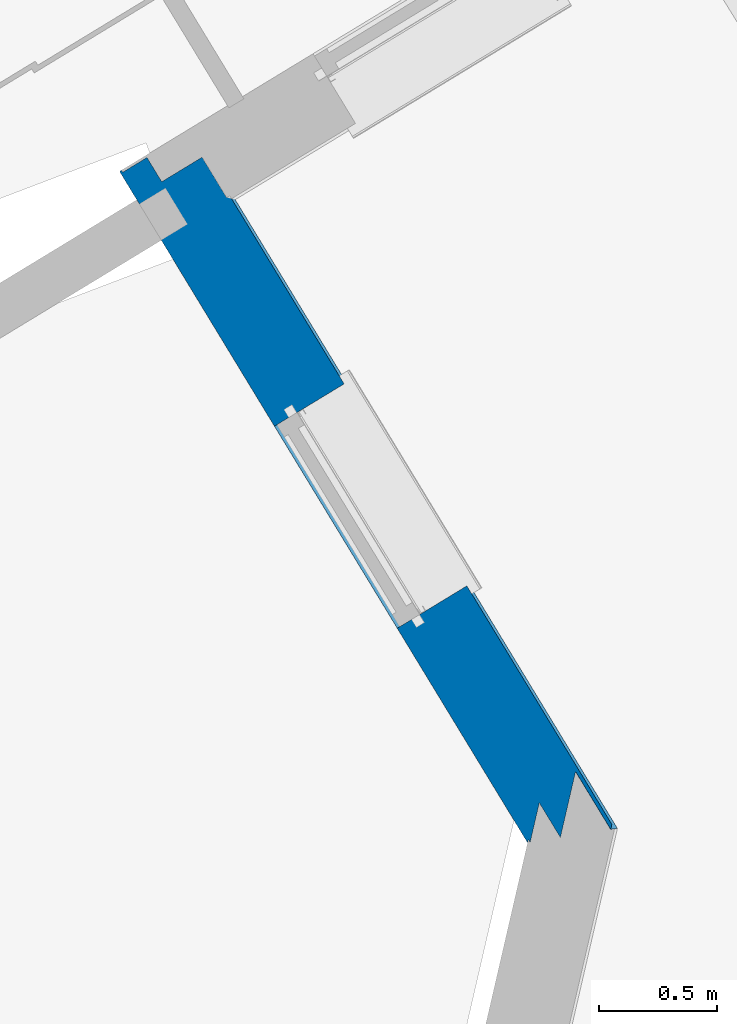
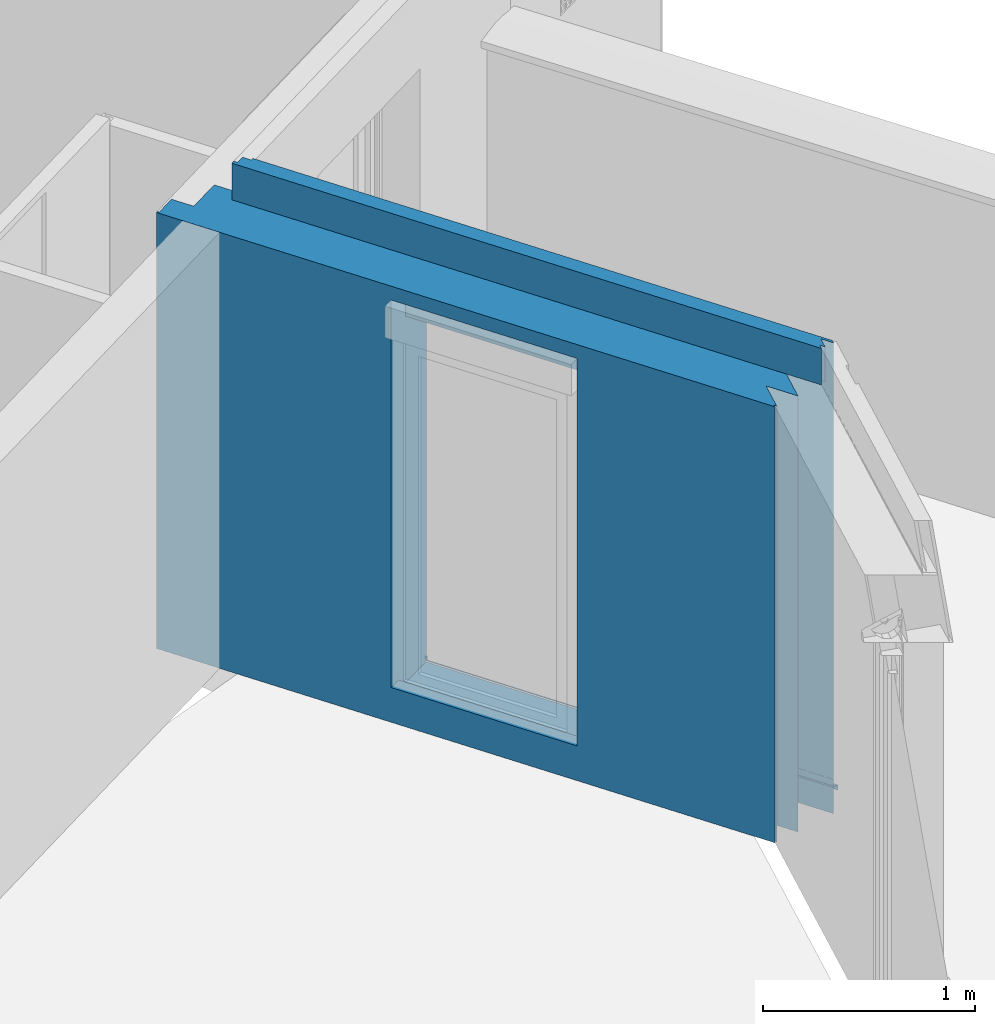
# One storey, part 33 of 119: 1 wall, 1 opening.
"""IFC2X3 building model written with IfcOpenShell, lengths in metres."""

from ifc_helpers import new_model, entity, si_unit, converted_unit, derived_unit, money_unit, direction, frame, origin_with_axes, place, context, subcontext, project, spatial, faceted_brep, material, material_list, type_object, element, save


model = new_model("IFC2X3")

# Units and contexts
model_context = context("Model", 3, precision=1e-05, world=origin_with_axes(), true_north=direction((0.0, 1.0)))
body_context = subcontext(model_context, "Body", "Model", "MODEL_VIEW")
ifc_project = project(units=[si_unit("LENGTHUNIT", "METRE"), si_unit("AREAUNIT", "SQUARE_METRE"), si_unit("VOLUMEUNIT", "CUBIC_METRE"), converted_unit("PLANEANGLEUNIT", "DEGREE", entity("IfcPlaneAngleMeasure", 0.0174532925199), si_unit("PLANEANGLEUNIT", "RADIAN"), dimensions=[0, 0, 0, 0, 0, 0, 0]), si_unit("SOLIDANGLEUNIT", "STERADIAN"), money_unit("EUR"), converted_unit("TIMEUNIT", "Year", entity("IfcTimeMeasure", 31556926.0), si_unit("TIMEUNIT", "SECOND"), dimensions=[0, 0, 1, 0, 0, 0, 0]), si_unit("MASSUNIT", "GRAM", prefix="KILO"), si_unit("THERMODYNAMICTEMPERATUREUNIT", "DEGREE_CELSIUS"), si_unit("LUMINOUSINTENSITYUNIT", "LUMEN"), si_unit("ENERGYUNIT", "JOULE", prefix="MEGA"), derived_unit("THERMALCONDUCTANCEUNIT", [(si_unit("POWERUNIT", "WATT"), 1), (si_unit("LENGTHUNIT", "METRE"), -1), (si_unit("THERMODYNAMICTEMPERATUREUNIT", "KELVIN"), -1)]), derived_unit("SPECIFICHEATCAPACITYUNIT", [(si_unit("ENERGYUNIT", "JOULE"), 1), (si_unit("MASSUNIT", "GRAM", prefix="KILO"), -1), (si_unit("THERMODYNAMICTEMPERATUREUNIT", "KELVIN"), -1)]), derived_unit("MASSDENSITYUNIT", [(si_unit("MASSUNIT", "GRAM", prefix="KILO"), 1), (si_unit("VOLUMEUNIT", "CUBIC_METRE"), -1)])], contexts=[model_context])

# Site, building, storey
site_placement = place(None, origin_with_axes())
site = spatial("IfcSite", under=ifc_project, at=site_placement, Name="Site", CompositionType="ELEMENT")
building_placement = place(site_placement, origin_with_axes())
building = spatial("IfcBuilding", under=site, at=building_placement, Name="Bâtiment", CompositionType="ELEMENT")
storey_placement = place(building_placement, origin_with_axes())
storey = spatial("IfcBuildingStorey", under=building, at=storey_placement, Name="Rez-de-chaussée", CompositionType="ELEMENT", Elevation=0.0)

# Wall, opening
ifc_material_1 = material(Name="Métal - Aluminium")
ifc_material_2 = material(Name="Finition ext - Crépis")
ifc_material_3 = material(Name="Etanchéité - Bitume")
ifc_material_4 = material(Name="Béton cellulaire")
ifc_material_5 = material(Name="Mortier")
ifc_material_6 = material(Name="Isolation - Polystyrène expansé")
ifc_material_7 = material(Name="Bloc ELITHERM")
ifc_material_8 = material(Name="Isolation - Polystyrène extrudé")
ifc_material_9 = material(Name="Finition int - Plaque de plâtre")
ifc_material_list = material_list([ifc_material_1, ifc_material_2, ifc_material_3, ifc_material_4, ifc_material_5, ifc_material_6, ifc_material_7, ifc_material_8, ifc_material_9])
wall_type = type_object("IfcWallType", Name="Mur ALKERN + planelle 21 TERRASSE RDC 356 x 2720", PredefinedType="USERDEFINED")
wall_placement = place(storey_placement, frame((0.778272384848, 20.6465593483, 0.0), z_axis=(0.0, 0.0, 1.0), x_axis=(0.519386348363, -0.854539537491, 0.0)))
wall = element("IfcWall", 1, at=wall_placement, inside=storey, type_object=wall_type, material=ifc_material_list, Name="Mue bloc ALKERN isolé", ObjectType="SOLIDWALL", context=body_context, shape_type="Brep", body=[
    faceted_brep([(0.90225256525, -0.0035607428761, 0.14), (1.90225256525, -0.0035607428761, 0.14), (1.90225256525, -0.0035607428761, 0.162931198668), (3.10339828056, -0.0035607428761, 0.16293119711), (3.1085472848, -0.0035607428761, 0.161852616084), (3.1085472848, -0.0035607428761, 0.160000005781), (3.1085472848, -0.0035607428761, 0.133633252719), (-0.00479482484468, -0.0035607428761, 0.133633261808), (-0.00479482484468, -0.0035607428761, 0.160000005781), (-0.00479482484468, -0.0035607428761, 0.161852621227), (-0.00839011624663, -0.0035607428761, 0.162931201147), (0.90225256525, -0.0035607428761, 0.162931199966), (0.90225256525, -0.00479482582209, 0.14), (1.90225256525, -0.00479482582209, 0.14), (1.90225256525, -0.0300000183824, 0.170774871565), (1.90225256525, -0.00479482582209, 0.161852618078), (1.90225256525, -0.0299999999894, 0.169414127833), (1.90225256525, -0.031045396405, 0.169727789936), (1.90225256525, -0.0310453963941, 0.2), (1.90225256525, -0.0300000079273, 0.2), (1.90225256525, -0.0300000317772, 0.176532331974), (3.09805836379, -0.0300000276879, 0.170774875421), (3.09443987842, -0.0264705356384, 0.169727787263), (3.09485312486, -0.0254132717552, 0.169414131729), (3.09955550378, -0.0299999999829, 0.169414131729), (3.10981248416, -0.00479482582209, 0.161852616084), (3.10981248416, -0.00479482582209, 0.160000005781), (3.10981248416, -0.00479482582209, 0.133633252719), (-0.00479482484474, -0.00479482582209, 0.133633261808), (-0.00479482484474, -0.00479482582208, 0.160000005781), (-0.00479482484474, -0.00479482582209, 0.161852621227), (-0.0300000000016, -0.03, 0.169414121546), (-0.0300000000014, -0.0254132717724, 0.169414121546), (0.90225256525, -0.0300000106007, 0.17077486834), (-0.0310453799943, -0.0264705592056, 0.169727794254), (-0.0310453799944, -0.030000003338, 0.17077486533), (0.90225256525, -0.0300000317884, 0.176532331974), (0.90225256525, -0.0300000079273, 0.2), (0.90225256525, -0.0310453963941, 0.2), (0.90225256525, -0.0310453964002, 0.16972779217), (0.90225256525, -0.0299999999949, 0.169414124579), (0.90225256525, -0.00479482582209, 0.161852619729), (3.09913009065, -0.0310453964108, 0.169727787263), (3.09913009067, -0.031045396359, 0.176532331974), (3.09913009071, -0.0310453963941, 0.207793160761), (1.90225256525, -0.0310453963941, 0.207793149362), (1.90225256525, -0.03, 0.207793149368), (3.09805833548, -0.03, 0.207793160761), (3.09805836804, -0.0300000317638, 0.176532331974), (-0.0310453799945, -0.0310453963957, 0.169727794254), (-0.0310453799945, -0.0310453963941, 0.176532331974), (-0.0310453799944, -0.0300000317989, 0.176532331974), (-0.0310453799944, -0.03, 0.207793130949), (0.90225256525, -0.03, 0.207793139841), (0.90225256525, -0.0310453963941, 0.207793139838), (-0.0310453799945, -0.0310453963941, 0.207793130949)], [[[0, 1, 2, 3, 4, 5, 6, 7, 8, 9, 10, 11]], [[1, 0, 12, 13]], [[14, 2, 1, 13, 15, 16, 17, 18, 19, 20]], [[2, 14, 21, 22, 23, 3]], [[24, 25, 4, 3, 23]], [[4, 25, 26, 5]], [[26, 27, 6, 5]], [[28, 7, 6, 27]], [[8, 7, 28, 29]], [[8, 29, 30, 9]], [[30, 31, 32, 10, 9]], [[33, 11, 10, 32, 34, 35]], [[0, 11, 33, 36, 37, 38, 39, 40, 41, 12]], [[12, 41, 30, 29, 28, 27, 26, 25, 15, 13]], [[16, 15, 25, 24]], [[17, 16, 24, 42]], [[18, 17, 42, 43, 44, 45]], [[19, 18, 45, 46]], [[20, 19, 46, 47, 48]], [[14, 20, 48, 21]], [[43, 42, 22, 21, 48]], [[22, 42, 24, 23]], [[41, 40, 31, 30]], [[32, 31, 49, 34]], [[49, 50, 51, 35, 34]], [[36, 33, 35, 51]], [[37, 36, 51, 52, 53]], [[38, 37, 53, 54]], [[39, 38, 54, 55, 50, 49]], [[40, 39, 49, 31]], [[43, 48, 47, 44]], [[45, 44, 47, 46]], [[51, 50, 55, 52]], [[53, 52, 55, 54]]]),
    faceted_brep([(0.90225256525, -0.0299999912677, 0.2), (0.90225256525, -0.0300000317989, 0.176532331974), (0.90225256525, -0.0150000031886, 0.176532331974), (0.90225256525, -0.0150000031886, 0.2), (0.90225256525, -0.0150000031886, 2.25), (0.90225256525, -0.0299999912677, 2.25), (1.90225256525, -0.0299999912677, 0.2), (1.90225256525, -0.0300000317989, 0.176532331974), (3.09955549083, -0.0300000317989, 0.176532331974), (3.09955550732, -0.0299999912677, 2.72), (-0.0300000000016, -0.0299999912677, 2.72), (-0.0300000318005, -0.0300000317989, 0.176532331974), (1.90225256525, -0.0299999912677, 2.25), (-0.0300000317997, -0.0150000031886, 0.176532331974), (1.90225256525, -0.0150000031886, 0.176532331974), (1.90225256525, -0.0150000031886, 0.2), (1.90225256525, -0.0150000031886, 2.25), (-0.0300000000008, -0.0150000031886, 2.72), (3.08417730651, -0.0150000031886, 2.72), (3.08417724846, -0.0150000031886, 0.176532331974)], [[[0, 1, 2, 3, 4, 5]], [[6, 7, 8, 9, 10, 11, 1, 0, 5, 12]], [[2, 1, 11, 13]], [[14, 15, 16, 4, 3, 2, 13, 17, 18, 19]], [[16, 12, 5, 4]], [[15, 14, 7, 6, 12, 16]], [[7, 14, 19, 8]], [[9, 8, 19, 18]], [[10, 9, 18, 17]], [[17, 13, 11, 10]]]),
    faceted_brep([(0.90225256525, -0.02, 0.14), (1.90225256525, -0.02, 0.14), (1.90225256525, -0.02, 0.160000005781), (3.08930334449, -0.02, 0.160000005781), (3.08930334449, -0.02, 0.133633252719), (3.08930334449, -0.02, 0.01), (-0.0291227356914, -0.02, 0.01), (-0.0291227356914, -0.02, 0.0), (-0.0300000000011, -0.02, 0.0), (-0.0300000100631, -0.02, 0.133633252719), (-0.0300000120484, -0.02, 0.160000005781), (0.90225256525, -0.02, 0.160000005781), (0.90225256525, -0.0300000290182, 0.14), (1.90225256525, -0.0300000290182, 0.14), (1.90225256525, -0.0300000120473, 0.160000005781), (3.09955549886, -0.0300000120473, 0.160000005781), (3.09955549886, -0.0300000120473, 0.133633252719), (3.0995555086, -0.0299999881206, 0.01), (-0.0291848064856, -0.0300000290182, 0.01), (-0.0291848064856, -0.0300000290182, 0.0), (-0.0300000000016, -0.0300000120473, 0.0), (-0.0300000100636, -0.0300000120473, 0.133633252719), (-0.0300000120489, -0.0300000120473, 0.160000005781), (0.90225256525, -0.0300000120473, 0.160000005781)], [[[0, 1, 2, 3, 4, 5, 6, 7, 8, 9, 10, 11]], [[1, 0, 12, 13]], [[14, 2, 1, 13]], [[2, 14, 15, 3]], [[4, 3, 15, 16]], [[5, 4, 16, 17]], [[5, 17, 18, 6]], [[6, 18, 19, 7]], [[19, 20, 8, 7]], [[21, 9, 8, 20]], [[22, 10, 9, 21]], [[23, 11, 10, 22]], [[0, 11, 23, 12]], [[12, 23, 22, 21, 20, 19, 18, 17, 16, 15, 14, 13]]]),
    faceted_brep([(-0.0780000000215, -0.03, 2.51999999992), (-0.0780000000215, -0.03, 2.72), (3.03081212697, -0.03, 2.72), (3.03081212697, -0.03, 2.51999999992), (-0.078000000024, -0.0780000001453, 2.72), (-0.078000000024, -0.0780000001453, 2.51999999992), (3.08002240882, -0.0780000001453, 2.72), (3.08002240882, -0.0780000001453, 2.51999999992)], [[[0, 1, 2, 3]], [[4, 1, 0, 5]], [[1, 4, 6, 2]], [[3, 2, 6, 7]], [[5, 0, 3, 7]], [[4, 5, 7, 6]]]),
    faceted_brep([(3.07188361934, -0.098, 2.52), (3.0021690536, -0.03, 2.52), (-0.0979999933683, -0.03, 2.52), (-0.0979999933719, -0.098, 2.52), (3.0021690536, -0.03, 2.50955), (3.07188361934, -0.098, 2.50955), (-0.0979999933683, -0.03, 2.50955002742), (-0.0979999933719, -0.098, 2.50955002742)], [[[0, 1, 2, 3]], [[4, 1, 0, 5]], [[1, 4, 6, 2]], [[7, 3, 2, 6]], [[5, 0, 3, 7]], [[4, 5, 7, 6]]]),
    faceted_brep([(-0.0979999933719, -0.0980000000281, 2.72), (3.07188361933, -0.0980000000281, 2.72), (3.05137933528, -0.0780000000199, 2.72), (-0.0979999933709, -0.0780000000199, 2.72), (-0.0979999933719, -0.0980000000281, 2.51999999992), (3.07188361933, -0.0980000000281, 2.51999999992), (3.05137933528, -0.0780000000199, 2.51999999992), (-0.0979999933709, -0.0780000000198, 2.51999999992)], [[[0, 1, 2, 3]], [[4, 5, 1, 0]], [[5, 6, 2, 1]], [[3, 2, 6, 7]], [[7, 4, 0, 3]], [[7, 6, 5, 4]]]),
    faceted_brep([(1.90225256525, -0.0300000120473, 0.160000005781), (1.90225256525, -0.0300000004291, 0.169414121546), (2.81312478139, -0.0300000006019, 0.169414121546), (2.81312479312, -0.0300000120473, 0.160000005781), (1.90225256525, -0.0310453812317, 0.169727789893), (1.90225256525, -0.03, 0.14), (1.90225256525, -0.229999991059, 0.14), (1.90225256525, -0.229999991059, 0.2), (1.90225256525, -0.0310453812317, 0.2), (2.81419652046, -0.0310453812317, 0.169727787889), (3.01816761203, -0.229999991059, 0.169414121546), (3.01816761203, -0.229999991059, 0.160000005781), (2.81312478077, -0.03, 0.133633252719), (2.81312478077, -0.03, 0.0), (-0.229999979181, -0.03, 0.0), (-0.229999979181, -0.03, 0.133633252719), (-0.229999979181, -0.0300000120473, 0.160000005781), (0.90225256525, -0.0300000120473, 0.160000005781), (0.90225256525, -0.03, 0.14), (0.90225256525, -0.229999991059, 0.14), (-0.229999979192, -0.229999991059, 0.133633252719), (-0.229999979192, -0.229999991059, 0.0), (3.01816761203, -0.229999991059, 0.0), (3.01816761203, -0.229999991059, 0.133633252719), (3.01816761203, -0.229999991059, 0.176532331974), (3.01816761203, -0.229999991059, 0.207793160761), (3.01816761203, -0.229999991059, 2.50955001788), (-0.229999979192, -0.229999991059, 2.50955001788), (-0.229999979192, -0.229999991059, 0.207793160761), (-0.229999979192, -0.229999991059, 0.176532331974), (-0.229999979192, -0.229999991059, 0.169414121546), (-0.229999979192, -0.229999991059, 0.160000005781), (0.90225256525, -0.229999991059, 0.2), (0.90225256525, -0.229999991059, 2.25), (0.90225256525, -0.229999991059, 2.43), (1.90225256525, -0.229999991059, 2.43), (1.90225256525, -0.229999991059, 2.25), (1.90225256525, -0.218560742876, 2.25), (1.90225256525, -0.03, 2.25), (1.90225256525, -0.03, 0.207793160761), (1.90225256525, -0.0310453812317, 0.207793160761), (2.81419652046, -0.0310453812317, 0.207793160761), (2.81419652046, -0.0310453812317, 0.176532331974), (0.90225256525, -0.0300000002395, 0.169414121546), (-0.229999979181, -0.0300000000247, 0.169414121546), (0.90225256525, -0.0310453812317, 0.169727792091), (0.90225256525, -0.0310453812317, 0.2), (2.81312478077, -0.03, 2.50955001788), (2.88283933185, -0.0979999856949, 2.50955001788), (2.81312478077, -0.03, 0.207793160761), (-0.229999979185, -0.0979999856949, 2.50955001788), (-0.229999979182, -0.0310453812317, 0.207793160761), (-0.229999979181, -0.03, 2.50955001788), (-0.229999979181, -0.03, 0.207793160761), (-0.229999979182, -0.0310453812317, 0.176532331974), (-0.229999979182, -0.0310453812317, 0.169727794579), (0.90225256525, -0.0310453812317, 0.207793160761), (0.90225256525, -0.03, 0.207793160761), (0.90225256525, -0.03, 2.25), (0.90225256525, -0.218560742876, 2.25), (0.90225256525, -0.218560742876, 2.43), (1.90225256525, -0.218560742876, 2.43)], [[[0, 1, 2, 3]], [[4, 1, 0, 5, 6, 7, 8]], [[1, 4, 9, 2]], [[2, 10, 11, 3]], [[5, 0, 3, 12, 13, 14, 15, 16, 17, 18]], [[5, 18, 19, 6]], [[20, 21, 22, 23, 11, 10, 24, 25, 26, 27, 28, 29, 30, 31], [19, 32, 33, 34, 35, 36, 7, 6]], [[8, 7, 36, 37, 38, 39, 40]], [[4, 8, 40, 41, 42, 9]], [[42, 24, 10, 2, 9]], [[3, 11, 23, 12]], [[13, 12, 23, 22]], [[22, 21, 14, 13]], [[15, 14, 21, 20]], [[15, 20, 31, 16]], [[43, 17, 16, 44]], [[17, 43, 45, 46, 32, 19, 18]], [[25, 24, 42, 41]], [[47, 48, 26, 25, 41, 49]], [[48, 50, 27, 26]], [[51, 28, 27, 50, 52, 53]], [[29, 28, 51, 54]], [[55, 44, 30, 29, 54]], [[16, 31, 30, 44]], [[32, 46, 56, 57, 58, 59, 33]], [[59, 60, 34, 33]], [[34, 60, 61, 35]], [[36, 35, 61, 37]], [[59, 58, 38, 37]], [[53, 52, 47, 49, 39, 38, 58, 57]], [[49, 41, 40, 39]], [[45, 43, 44, 55]], [[46, 45, 55, 54, 51, 56]], [[47, 52, 50, 48]], [[51, 53, 57, 56]], [[37, 61, 60, 59]]]),
    faceted_brep([(-0.350000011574, -0.22999997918, 2.50955001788), (2.84630912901, -0.22999997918, 2.50955001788), (2.84630912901, -0.22999997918, 0.207793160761), (2.84630912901, -0.22999997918, 0.176532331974), (2.84630912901, -0.22999997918, 0.169414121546), (2.84630912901, -0.22999997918, 0.160000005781), (2.84630912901, -0.22999997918, 0.133633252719), (2.84630912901, -0.22999997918, 0.0), (-0.350000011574, -0.22999997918, 0.0), (-0.350000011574, -0.22999997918, 0.133633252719), (-0.350000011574, -0.22999997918, 0.160000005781), (-0.350000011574, -0.22999997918, 0.169414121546), (-0.350000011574, -0.22999997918, 0.176532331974), (-0.350000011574, -0.22999997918, 0.207793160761), (0.90225256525, -0.22999997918, 0.14), (1.90225256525, -0.22999997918, 0.14), (1.90225256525, -0.22999997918, 0.2), (1.90225256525, -0.22999997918, 2.25), (1.90225256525, -0.22999997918, 2.43), (0.90225256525, -0.22999997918, 2.43), (0.90225256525, -0.22999997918, 2.25), (0.90225256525, -0.22999997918, 0.2), (-0.350000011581, -0.350000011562, 2.50955001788), (2.96933486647, -0.350000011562, 2.50955001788), (2.96933486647, -0.350000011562, 0.207793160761), (2.96933486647, -0.350000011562, 0.176532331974), (2.96933486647, -0.350000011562, 0.169414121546), (2.96933486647, -0.350000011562, 0.160000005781), (2.96933486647, -0.350000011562, 0.133633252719), (2.96933486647, -0.350000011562, 0.0), (-0.350000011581, -0.350000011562, 0.0), (-0.350000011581, -0.350000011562, 0.133633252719), (-0.350000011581, -0.350000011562, 0.160000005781), (-0.350000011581, -0.350000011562, 0.169414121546), (-0.350000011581, -0.350000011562, 0.176532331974), (-0.350000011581, -0.350000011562, 0.207793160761), (0.90225256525, -0.289560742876, 0.14), (1.90225256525, -0.289560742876, 0.14), (1.90225256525, -0.248560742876, 0.2), (1.90225256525, -0.289560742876, 0.2), (1.90225256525, -0.248560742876, 2.25), (1.90225256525, -0.350000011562, 2.25), (1.90225256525, -0.350000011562, 2.43), (0.90225256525, -0.350000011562, 2.43), (0.90225256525, -0.350000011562, 2.25), (0.90225256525, -0.248560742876, 2.25), (0.90225256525, -0.248560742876, 0.2), (0.90225256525, -0.289560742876, 0.2), (0.90225256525, -0.350000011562, 0.2), (1.90225256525, -0.350000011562, 0.2)], [[[0, 1, 2, 3, 4, 5, 6, 7, 8, 9, 10, 11, 12, 13], [14, 15, 16, 17, 18, 19, 20, 21]], [[1, 0, 22, 23]], [[23, 24, 2, 1]], [[25, 3, 2, 24]], [[26, 4, 3, 25]], [[26, 27, 5, 4]], [[27, 28, 6, 5]], [[6, 28, 29, 7]], [[29, 30, 8, 7]], [[9, 8, 30, 31]], [[9, 31, 32, 10]], [[10, 32, 33, 11]], [[33, 34, 12, 11]], [[34, 35, 13, 12]], [[35, 22, 0, 13]], [[15, 14, 36, 37]], [[38, 16, 15, 37, 39]], [[16, 38, 40, 17]], [[40, 41, 42, 18, 17]], [[18, 42, 43, 19]], [[43, 44, 45, 20, 19]], [[46, 21, 20, 45]], [[14, 21, 46, 47, 36]], [[35, 34, 33, 32, 31, 30, 29, 28, 27, 26, 25, 24, 23, 22], [48, 44, 43, 42, 41, 49]], [[47, 39, 37, 36]], [[38, 39, 49, 41, 40]], [[47, 46, 45, 44, 48]], [[39, 47, 48, 49]]]),
    faceted_brep([(2.95501336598, -0.350000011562, 0.176532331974), (2.95501336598, -0.350000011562, 0.169414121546), (2.95501336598, -0.350000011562, 0.160000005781), (2.95501336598, -0.350000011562, 0.133633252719), (2.95501336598, -0.350000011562, 0.0), (-0.359999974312, -0.350000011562, 0.0), (-0.359999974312, -0.350000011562, 2.50955002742), (2.95501336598, -0.350000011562, 2.50955001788), (2.95501336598, -0.350000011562, 0.207793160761), (0.90225256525, -0.350000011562, 2.43), (0.90225256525, -0.350000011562, 2.25), (0.90225256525, -0.350000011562, 0.2), (1.90225256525, -0.350000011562, 0.2), (1.90225256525, -0.350000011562, 2.25), (1.90225256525, -0.350000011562, 2.43), (2.96526548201, -0.359999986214, 0.176532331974), (2.96526548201, -0.359999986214, 0.169414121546), (2.96526548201, -0.359999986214, 0.160000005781), (2.96526548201, -0.359999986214, 0.133633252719), (2.96526548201, -0.359999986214, 0.0), (-0.359999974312, -0.359999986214, 0.0), (-0.359999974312, -0.359999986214, 2.50955002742), (2.96526548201, -0.359999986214, 2.50955001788), (2.96526548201, -0.359999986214, 0.207793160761), (0.90225256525, -0.359999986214, 2.43), (0.90225256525, -0.359999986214, 2.25), (0.90225256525, -0.359999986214, 0.2), (1.90225256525, -0.359999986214, 0.2), (1.90225256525, -0.359999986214, 2.25), (1.90225256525, -0.359999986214, 2.43)], [[[0, 1, 2, 3, 4, 5, 6, 7, 8], [9, 10, 11, 12, 13, 14]], [[15, 16, 1, 0]], [[1, 16, 17, 2]], [[2, 17, 18, 3]], [[4, 3, 18, 19]], [[19, 20, 5, 4]], [[20, 21, 6, 5]], [[7, 6, 21, 22]], [[7, 22, 23, 8]], [[23, 15, 0, 8]], [[10, 9, 24, 25]], [[10, 25, 26, 11]], [[11, 26, 27, 12]], [[28, 13, 12, 27]], [[14, 13, 28, 29]], [[9, 14, 29, 24]], [[21, 20, 19, 18, 17, 16, 15, 23, 22], [29, 28, 27, 26, 25, 24]]]),
])
opening_placement = place(wall_placement, frame((1.40225256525, 0.0, 0.2), z_axis=(0.0, 0.0, 1.0), x_axis=(1.0, 0.0, 0.0)))
element("IfcOpeningElement", 2, at=opening_placement, cuts=wall, Name="MEN 07", context=body_context, shape_type="Brep", body=[
    faceted_brep([(-0.5, -0.248560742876, 0.0), (0.5, -0.248560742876, 0.0), (0.5, -0.849999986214, 0.0), (-0.5, -0.849999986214, 0.0), (-0.5, -0.248560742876, 2.05), (0.5, -0.248560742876, 2.05), (0.5, -0.849999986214, 2.05), (-0.5, -0.849999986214, 2.05)], [[[0, 1, 2, 3]], [[0, 4, 5, 1]], [[1, 5, 6, 2]], [[3, 2, 6, 7]], [[4, 0, 3, 7]], [[5, 4, 7, 6]]]),
    faceted_brep([(-0.5, -0.248560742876, 0.0), (-0.5, -0.248560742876, 2.05), (-0.5, 0.352878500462, 2.05), (-0.5, 0.352878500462, 0.0), (0.5, -0.248560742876, 0.0), (0.5, -0.248560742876, 2.05), (0.5, 0.352878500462, 2.05), (0.5, 0.352878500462, 0.0)], [[[0, 1, 2, 3]], [[0, 4, 5, 1]], [[1, 5, 6, 2]], [[3, 2, 6, 7]], [[4, 0, 3, 7]], [[5, 4, 7, 6]]]),
    faceted_brep([(-0.5, -0.248560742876, 0.0), (-0.5, -0.248560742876, 2.05), (-0.5, 0.352878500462, 2.05), (-0.5, 0.352878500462, 0.0), (0.5, -0.248560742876, 0.0), (0.5, -0.248560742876, 2.05), (0.5, 0.352878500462, 2.05), (0.5, 0.352878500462, 0.0)], [[[0, 1, 2, 3]], [[0, 4, 5, 1]], [[1, 5, 6, 2]], [[3, 2, 6, 7]], [[4, 0, 3, 7]], [[5, 4, 7, 6]]]),
    faceted_brep([(-0.5, -0.218560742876, 2.05), (0.5, -0.218560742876, 2.05), (0.5, -0.819999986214, 2.05), (-0.5, -0.819999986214, 2.05), (-0.5, -0.218560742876, 2.23), (0.5, -0.218560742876, 2.23), (0.5, -0.819999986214, 2.23), (-0.5, -0.819999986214, 2.23)], [[[0, 1, 2, 3]], [[0, 4, 5, 1]], [[1, 5, 6, 2]], [[3, 2, 6, 7]], [[4, 0, 3, 7]], [[5, 4, 7, 6]]]),
    faceted_brep([(-0.5, -0.289560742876, 0.0), (0.5, -0.289560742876, 0.0), (0.5, 0.311878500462, 0.0), (-0.5, 0.311878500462, 0.0), (-0.5, -0.289560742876, -0.06), (0.5, -0.289560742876, -0.06), (0.5, 0.311878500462, -0.06), (-0.5, 0.311878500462, -0.06)], [[[0, 1, 2, 3]], [[0, 4, 5, 1]], [[1, 5, 6, 2]], [[3, 2, 6, 7]], [[4, 0, 3, 7]], [[5, 4, 7, 6]]]),
])

save(model, "model.ifc")
